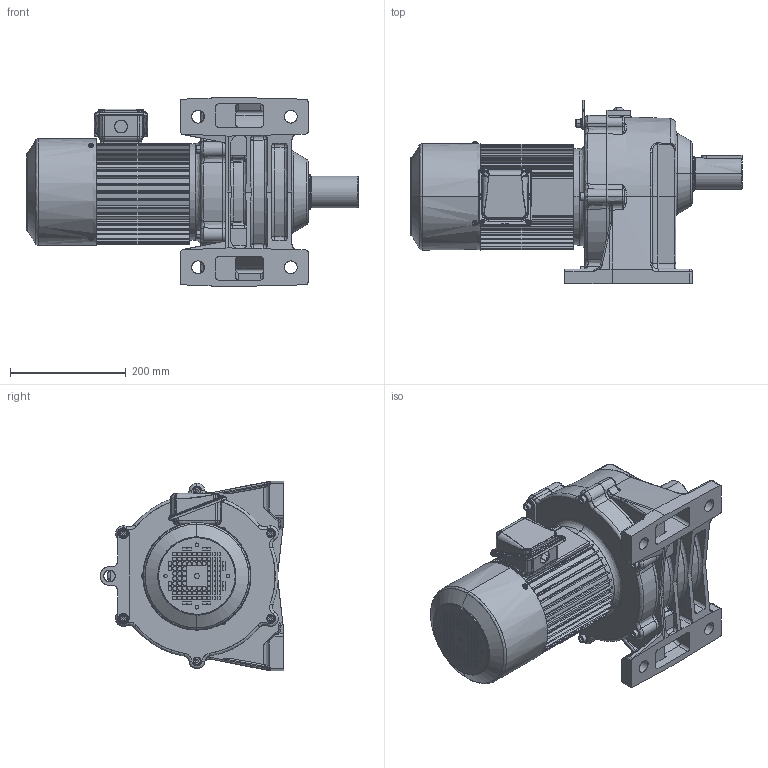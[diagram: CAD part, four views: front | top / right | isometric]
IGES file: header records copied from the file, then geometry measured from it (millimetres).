
Start section: SolidWorks IGES file using analytic representation for surfaces
Global section: file name: \\100.100.100.8\1_共有作業フォルダ\1-5_３Ｄデータ\solidworks\personal-folder\H.Nagayama\SGP1外形_075~370\P1(3D)_075~370\igs\TMLB2-15H-(100~160).IGS; native system: SolidWorks 2018; preprocessor: SolidWorks 2018; author: user; date: 210309.155022; units: millimetre
Bounding box: 573 x 316.87 x 327 mm (x, y, z)
Surface area: 1009861.9 mm2 (no closed solid volume)
Topology: 0 solids, 0 shells, 2610 faces, 29769 edges, 29702 vertices
Faces by surface type: bspline 1390, revolution 1220
